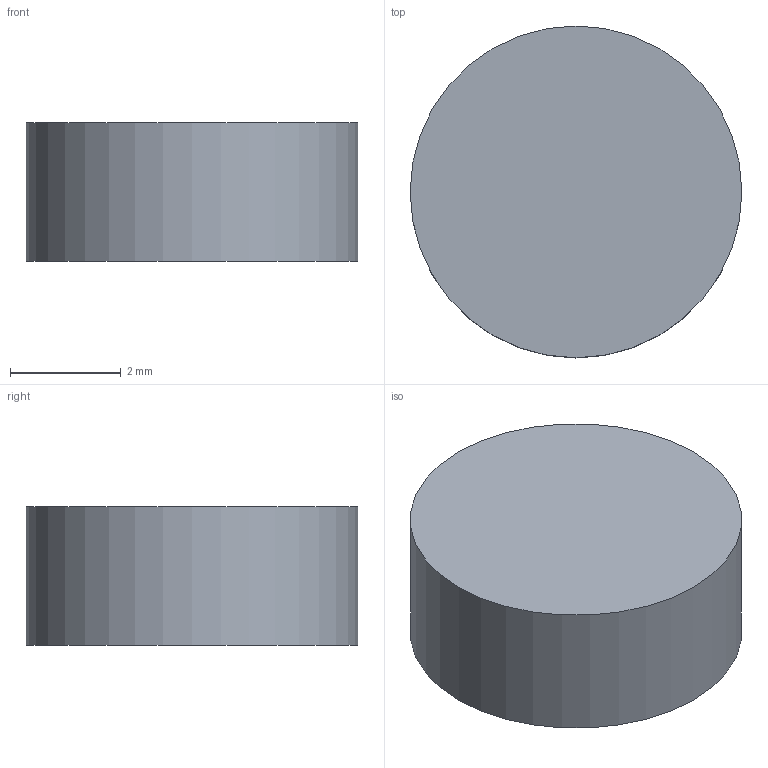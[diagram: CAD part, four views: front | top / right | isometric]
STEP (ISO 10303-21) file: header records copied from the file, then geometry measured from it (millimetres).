
FILE_DESCRIPTION(('Open CASCADE Model'),'2;1');
FILE_NAME('Open CASCADE Shape Model','2026-09-24T02:53:21',('Author'),( 'Open CASCADE'),'Open CASCADE STEP processor 7.8','Open CASCADE 7.8' ,'Unknown');
FILE_SCHEMA(('AUTOMOTIVE_DESIGN { 1 0 10303 214 1 1 1 1 }'));
Length unit declared in the file: millimetre
Products named in the file (1): Open CASCADE STEP translator 7.8 33
Bounding box: 6 x 6 x 2.5 mm (x, y, z)
Volume: 70.7 mm3; surface area: 103.7 mm2
Topology: 1 solids, 1 shells, 3 faces, 3 edges, 2 vertices
Faces by surface type: plane 2, cylinder 1
Full cylindrical faces by diameter (mm): 6 x1
Entity records: 108 total; most frequent: DIRECTION 19, CARTESIAN_POINT 15, AXIS2_PLACEMENT_3D 6, ORIENTED_EDGE 6, PCURVE 6, DEFINITIONAL_REPRESENTATION 6, LINE 5, VECTOR 5
